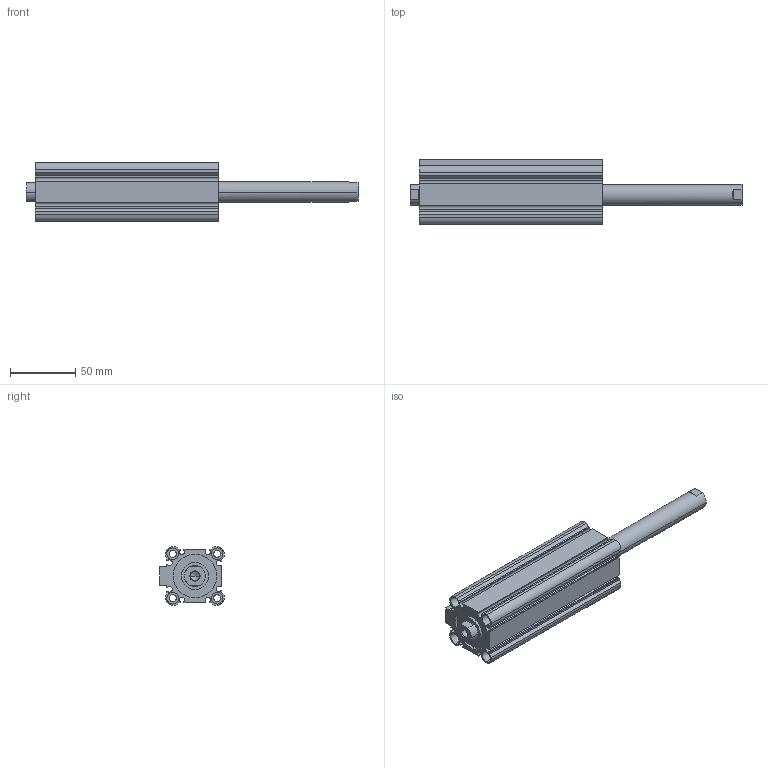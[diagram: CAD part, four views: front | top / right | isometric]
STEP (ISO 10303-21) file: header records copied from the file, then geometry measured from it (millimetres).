
FILE_DESCRIPTION (( 'STEP AP203' ), '1' );
FILE_NAME ('CCMB32-100F-P.STEP', '2020-08-05T11:16:43', ( '' ), ( '' ), 'SwSTEP 2.0', 'SolidWorks 2019', '' );
FILE_SCHEMA (( 'CONFIG_CONTROL_DESIGN' ));
Length unit declared in the file: millimetre
Products named in the file (1): CCMB32-100F-P
Bounding box: 254.5 x 49.5 x 45 mm (x, y, z)
Volume: 191284.7 mm3; surface area: 80059.4 mm2
Topology: 2 solids, 2 shells, 164 faces, 414 edges, 270 vertices
Faces by surface type: plane 78, cylinder 74, cone 12
Entity records: 5029 total; most frequent: DIRECTION 896, CARTESIAN_POINT 857, ORIENTED_EDGE 820, EDGE_CURVE 410, AXIS2_PLACEMENT_3D 325, VERTEX_POINT 270, LINE 246, VECTOR 246
